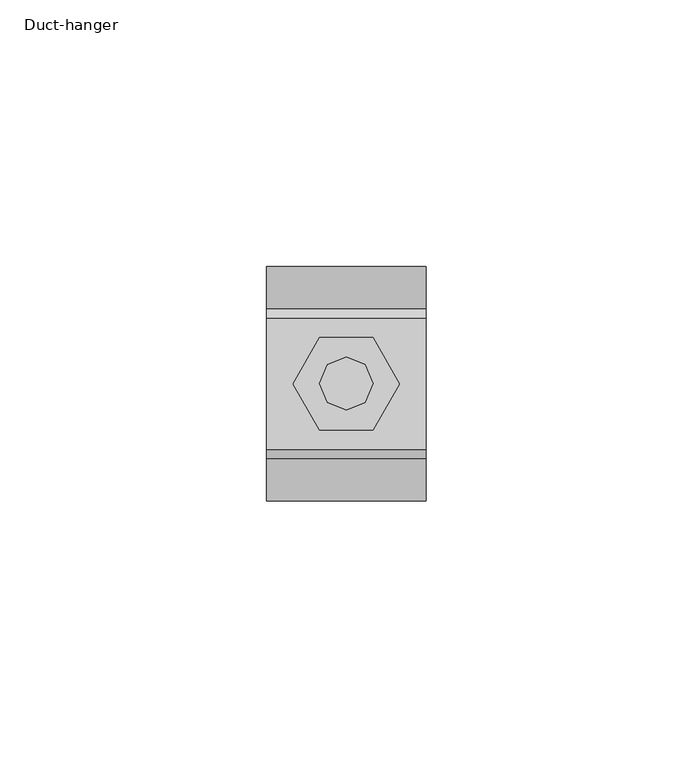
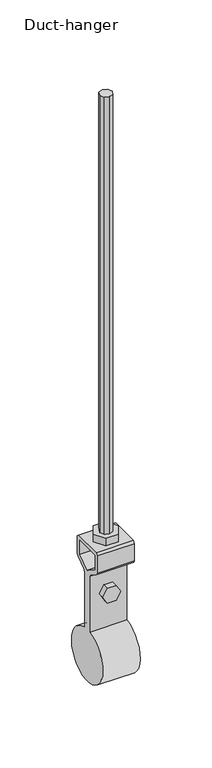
"""IFC4 building model written with IfcOpenShell, lengths in millimetres: proxy geometry, Duct-hanger : Φ44."""

import ifcopenshell
import ifcopenshell.guid

model = None  # the IFC model being written
_history = None  # IfcOwnerHistory: only IFC2X3 demands one
_inside = {}  # id of a spatial element -> (the spatial element, [elements in it])
_under = {}  # id of a project, library or spatial element -> (it, [spatial elements below it])
_declared = {}  # id of a project -> (the project, [libraries it declares])
_typed = {}  # id of a type object -> (the type object, [elements of that type])
_made_of = {}  # id of a material, layer set ... -> (it, [elements and type objects made of it])


def new_model(schema):
    """Start an empty IFC model of exactly this schema.

    Asked for "IFC4X3", IfcOpenShell would pick the latest addendum, in which some entities
    have other attributes; the version numbers below select the first issue.
    IFC2X3 requires an IfcOwnerHistory on every rooted entity: one is made here for all.
    """
    global model, _history
    if schema == "IFC4X3":
        model = ifcopenshell.file(schema_version=(4, 3, 0, 0))
    else:
        model = ifcopenshell.file(schema=schema)
    _inside.clear()
    _under.clear()
    _declared.clear()
    _typed.clear()
    _made_of.clear()
    _history = None
    if model.schema == "IFC2X3":
        org = make("IfcOrganization", Name="unknown")
        user = make(
            "IfcPersonAndOrganization",
            ThePerson=make("IfcPerson", FamilyName="unknown"),
            TheOrganization=org,
        )
        app = make(
            "IfcApplication",
            ApplicationDeveloper=org,
            Version="unknown",
            ApplicationFullName="unknown",
            ApplicationIdentifier="unknown",
        )
        _history = make(
            "IfcOwnerHistory",
            OwningUser=user,
            OwningApplication=app,
            ChangeAction="ADDED",
            CreationDate=0,
        )
    return model


def make(cls, **values):
    """One entity of the class cls with the attributes given. An attribute that is None is left unset."""
    return model.create_entity(
        cls, **{name: value for name, value in values.items() if value is not None}
    )


def rooted(cls, **values):
    """An entity with a GlobalId (a new one), such as an element, a storey or a relation."""
    return make(cls, GlobalId=ifcopenshell.guid.new(), OwnerHistory=_history, **values)


def si_unit(unit_type, name, prefix=None):
    """IfcSIUnit, for example si_unit("LENGTHUNIT", "METRE", prefix="MILLI")."""
    return make("IfcSIUnit", UnitType=unit_type, Prefix=prefix, Name=name)


def assignment(units):
    """IfcUnitAssignment: the units of a project."""
    return None if units is None else make("IfcUnitAssignment", Units=units)


def point(xyz):
    """IfcCartesianPoint."""
    return None if xyz is None else make("IfcCartesianPoint", Coordinates=xyz)


def direction(xyz):
    """IfcDirection."""
    return None if xyz is None else make("IfcDirection", DirectionRatios=xyz)


def frame(location, z_axis=None, x_axis=None):
    """IfcAxis2Placement3D, a coordinate frame: its origin and axes. An axis left out is left unset."""
    return make(
        "IfcAxis2Placement3D",
        Location=point(location),
        Axis=direction(z_axis),
        RefDirection=direction(x_axis),
    )


def frame_2d(location, x_axis=None):
    """IfcAxis2Placement2D, a coordinate frame in the plane: its origin and x axis."""
    return make(
        "IfcAxis2Placement2D", Location=point(location), RefDirection=direction(x_axis)
    )


def origin():
    """The frame at (0, 0, 0) with its axes left unset."""
    return frame((0.0, 0.0, 0.0))


def place(relative_to, where):
    """IfcLocalPlacement: puts the frame where relative to a parent placement (None: the world)."""
    return make(
        "IfcLocalPlacement", PlacementRelTo=relative_to, RelativePlacement=where
    )


def context(
    kind, dimensions, precision=None, world=None, true_north=None, identifier=None
):
    """IfcGeometricRepresentationContext, for example the 3D "Model" context."""
    return make(
        "IfcGeometricRepresentationContext",
        ContextIdentifier=identifier,
        ContextType=kind,
        CoordinateSpaceDimension=dimensions,
        Precision=precision,
        WorldCoordinateSystem=world,
        TrueNorth=true_north,
    )


def project(units=None, contexts=None):
    """IfcProject with its units and contexts."""
    return rooted(
        "IfcProject",
        Name="project",
        RepresentationContexts=contexts,
        UnitsInContext=assignment(units),
    )


def spatial(cls, under=None, at=None, **own):
    """A site, building, storey or space (cls), placed at a placement, below another one or the project."""
    s = rooted(cls, ObjectPlacement=at, **own)
    if under is not None:
        _under.setdefault(under.id(), (under, []))[1].append(s)
    return s


def polyline(points):
    """IfcPolyline through the points."""
    return make("IfcPolyline", Points=[point(p) for p in points])


def circle_curve(where, radius):
    """IfcCircle in the frame where."""
    return make("IfcCircle", Position=where, Radius=radius)


def trimmed(basis, trim1, trim2, sense, master):
    """IfcTrimmedCurve: the piece of a basis curve between two trims."""
    return make(
        "IfcTrimmedCurve",
        BasisCurve=basis,
        Trim1=trim1,
        Trim2=trim2,
        SenseAgreement=sense,
        MasterRepresentation=master,
    )


def segment(curve, same_sense, transition):
    """IfcCompositeCurveSegment."""
    return make(
        "IfcCompositeCurveSegment",
        Transition=transition,
        SameSense=same_sense,
        ParentCurve=curve,
    )


def composite_curve(segments, self_intersect=None):
    """IfcCompositeCurve: segments joined end to end."""
    return make("IfcCompositeCurve", Segments=segments, SelfIntersect=self_intersect)


def outline(outer, holes=None, kind="AREA"):
    """IfcArbitraryClosedProfileDef: a profile drawn as a closed curve; with holes, ...WithVoids."""
    if holes is None:
        return make("IfcArbitraryClosedProfileDef", ProfileType=kind, OuterCurve=outer)
    return make(
        "IfcArbitraryProfileDefWithVoids",
        ProfileType=kind,
        OuterCurve=outer,
        InnerCurves=holes,
    )


def extrude(swept, where, along, depth):
    """IfcExtrudedAreaSolid: the profile swept, set in the frame where, extruded along a direction by depth."""
    return make(
        "IfcExtrudedAreaSolid",
        SweptArea=swept,
        Position=where,
        ExtrudedDirection=direction(along),
        Depth=depth,
    )


def shape(context_of_items, identifier, shape_type, items):
    """IfcShapeRepresentation: the items that make up one representation, for example the "Body"."""
    return make(
        "IfcShapeRepresentation",
        ContextOfItems=context_of_items,
        RepresentationIdentifier=identifier,
        RepresentationType=shape_type,
        Items=items,
    )


def source(mapping_origin, context_of_items, identifier, shape_type, items):
    """IfcRepresentationMap: a shape defined once, which mapped items show again and again."""
    return make(
        "IfcRepresentationMap",
        MappingOrigin=mapping_origin,
        MappedRepresentation=shape(context_of_items, identifier, shape_type, items),
    )


def transform(
    local_origin,
    x_axis=None,
    y_axis=None,
    z_axis=None,
    scale=None,
    scale2=None,
    scale3=None,
    uniform=True,
):
    """IfcCartesianTransformationOperator3D, or its non-uniform kind. x_axis, y_axis, z_axis: its Axis1, 2, 3."""
    if uniform:
        return make(
            "IfcCartesianTransformationOperator3D",
            Axis1=direction(x_axis),
            Axis2=direction(y_axis),
            LocalOrigin=point(local_origin),
            Scale=scale,
            Axis3=direction(z_axis),
        )
    return make(
        "IfcCartesianTransformationOperator3DnonUniform",
        Axis1=direction(x_axis),
        Axis2=direction(y_axis),
        LocalOrigin=point(local_origin),
        Scale=scale,
        Axis3=direction(z_axis),
        Scale2=scale2,
        Scale3=scale3,
    )


def mapped(mapping_source, mapping_target):
    """IfcMappedItem: shows the shape of a source again, moved by a transform."""
    return make(
        "IfcMappedItem", MappingSource=mapping_source, MappingTarget=mapping_target
    )


def made_of(thing, what):
    """Note that an element or type object is made of a material, layer set ...; save() writes the relation."""
    if what is not None:
        _made_of.setdefault(what.id(), (what, []))[1].append(thing)
    return thing


def element(
    cls,
    number,
    at=None,
    inside=None,
    cuts=None,
    type_object=None,
    material=None,
    context=None,
    identifier="Body",
    shape_type=None,
    held_by="IfcProductDefinitionShape",
    body=None,
    shapes=None,
    **own,
):
    """One element of the class cls, such as IfcWall. Its Tag is "e" and its number.

    at: its placement. inside: the storey or other place that contains it. cuts: it is an
    opening in that element (IfcRelVoidsElement). A single representation is given by context,
    identifier, shape_type and body (its items); several are given by shapes. held_by: the class
    of the entity that holds the representations. save() writes the other relations.
    """
    e = rooted(cls, Tag="e%d" % number, ObjectPlacement=at, **own)
    if body is not None:
        shapes = [shape(context, identifier, shape_type, body)]
    if shapes is not None:
        e.Representation = make(held_by, Representations=shapes)
    if inside is not None:
        _inside.setdefault(inside.id(), (inside, []))[1].append(e)
    if cuts is not None:
        rooted(
            "IfcRelVoidsElement", RelatingBuildingElement=cuts, RelatedOpeningElement=e
        )
    if type_object is not None:
        _typed.setdefault(type_object.id(), (type_object, []))[1].append(e)
    return made_of(e, material)


def aggregate(whole, parts):
    """IfcRelAggregates: a whole, such as a stair, and the parts it consists of."""
    return rooted("IfcRelAggregates", RelatingObject=whole, RelatedObjects=parts)


def save(model, path):
    """Write the relations noted so far, then the file.

    IfcRelAggregates (storeys below a building ...), IfcRelContainedInSpatialStructure (elements
    in a storey), IfcRelDefinesByType, IfcRelAssociatesMaterial and IfcRelDeclares: one each for
    every whole, place, type object, material and project.
    """
    for whole, parts in _under.values():
        aggregate(whole, parts)
    for where, things in _inside.values():
        rooted(
            "IfcRelContainedInSpatialStructure",
            RelatedElements=things,
            RelatingStructure=where,
        )
    for kind, things in _typed.values():
        rooted("IfcRelDefinesByType", RelatedObjects=things, RelatingType=kind)
    for what, things in _made_of.values():
        rooted("IfcRelAssociatesMaterial", RelatedObjects=things, RelatingMaterial=what)
    for by, libraries in _declared.values():
        rooted("IfcRelDeclares", RelatingContext=by, RelatedDefinitions=libraries)
    model.write(path)


def duct_hanger_845b88a9(model_context):
    return source(origin(), model_context, "Body", "SweptSolid", [
        extrude(outline(polyline([(3.5351563, 3.5351563), (5.0003052, 0.0), (3.5351563, -3.5351563), (0.0, -5.0), (-3.5354614, -3.5351563), (-5.0, 0.0), (-3.5354614, 3.5351563), (0.0, 5.0), (3.5351563, 3.5351563)])), frame((0.0, 0.0, -379.354911), z_axis=(0.0, 0.0, 1.0), x_axis=(1.0, 0.0, 0.0)), (0.0, 0.0, 1.0), 379.354911),
        extrude(outline(polyline([(5.0, 8.659668), (10.0, 0.0), (5.0, -8.659668), (-5.0, -8.659668), (-10.0, 0.0), (-5.0, 8.659668), (5.0, 8.659668)])), frame((0.0, 0.0, -379.354911), z_axis=(0.0, 0.0, 1.0), x_axis=(1.0, 0.0, 0.0)), (0.0, 0.0, 1.0), 6.6101074),
        extrude(outline(polyline([(-416.3702407, -3.5931396), (-422.5936904, -7.1862793), (-428.8171401, -3.5931396), (-428.8171401, 3.5931396), (-422.5936904, 7.1862793), (-416.3702407, 3.5931396), (-416.3702407, -3.5931396)])), frame((0.0, -8.2446289, 0.0), z_axis=(0.0, 1.0, 0.0), x_axis=(0.0, 0.0, 1.0)), (0.0, 0.0, 1.0), 16.4892578),
        extrude(outline(composite_curve([segment(polyline([(14.0234375, -381.0236122), (14.0234375, -395.6732704), (12.8845215, -397.7396156), (4.6337891, -402.9474403), (3.494873, -405.0143959), (3.494873, -452.5936904)]), True, "CONTINUOUS"), segment(trimmed(circle_curve(frame_2d((0.0, -474.3143226)), 22.0), [point((3.494873, -452.5936904))], [point((-3.494873, -452.5936904))], False, "CARTESIAN"), True, "CONTINUOUS"), segment(polyline([(-3.494873, -452.5936904), (-3.494873, -405.0143959), (-4.6337891, -402.9474403), (-12.8845215, -397.7396156), (-14.0234375, -395.6732704), (-14.0234375, -381.0236122), (-12.3547363, -379.354911), (12.3547363, -379.354911), (14.0234375, -381.0236122)]), True, "CONTINUOUS")], self_intersect=False), holes=[polyline([(0.0, -401.6212873), (10.7531738, -394.8346473), (10.7531738, -382.60839), (-10.7531738, -382.60839), (-10.7531738, -394.8346473), (0.0, -401.6212873)])]), frame((-15.0, 0.0, 0.0), z_axis=(1.0, 0.0, 0.0), x_axis=(0.0, 1.0, 0.0)), (0.0, 0.0, 1.0), 30.0),
    ])


if __name__ == "__main__":
    model = new_model("IFC4")
    model_context = context("Model", 3, world=origin())
    ifc_project = project(units=[si_unit("LENGTHUNIT", "METRE", prefix="MILLI")], contexts=[model_context])
    site = spatial("IfcSite", under=ifc_project)
    building = spatial("IfcBuilding", under=site)
    placement = place(None, origin())
    duct_hanger_shape = duct_hanger_845b88a9(model_context)
    element("IfcBuildingElementProxy", 1, Name="Duct-hanger : Φ44", ObjectType="Duct-hanger : Φ44", at=placement, inside=building, context=model_context, shape_type="MappedRepresentation", body=[
        mapped(duct_hanger_shape, transform((0.0, 0.0, 0.0), x_axis=(1.0, 0.0, 0.0), y_axis=(0.0, 1.0, 0.0), z_axis=(0.0, 0.0, 1.0))),
    ])
    save(model, "model.ifc")
